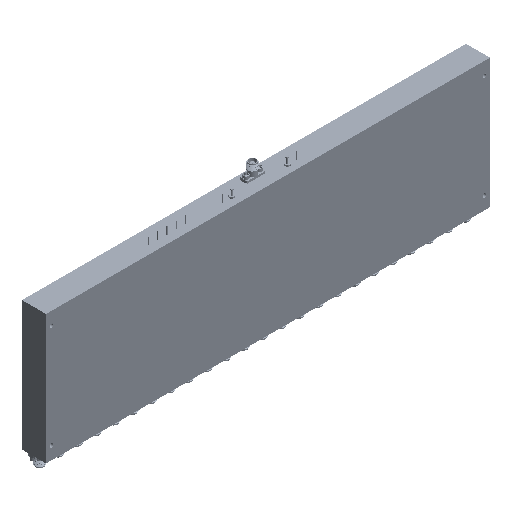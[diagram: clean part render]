
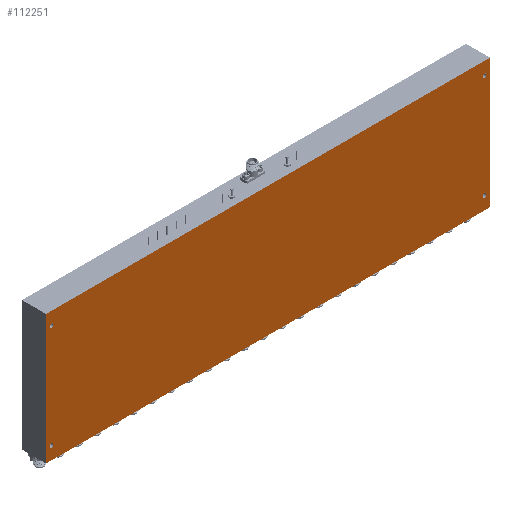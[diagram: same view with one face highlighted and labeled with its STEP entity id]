
A CAD part, isometric view. The second image highlights one B-rep face of the part: STEP entity #112251.
In plain terms, the highlighted planar face has unit normal (0, -1, 0).
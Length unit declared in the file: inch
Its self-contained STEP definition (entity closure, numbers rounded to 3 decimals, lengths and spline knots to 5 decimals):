
#8963 = CARTESIAN_POINT ( 'NONE',  ( 6., -0.65, -1.75 ) ) ;
#10577 = EDGE_CURVE ( 'NONE', #127408, #213827, #146254, .T. ) ;
#13530 = CIRCLE ( 'NONE', #177259, 0.04975 ) ;
#14816 = AXIS2_PLACEMENT_3D ( 'NONE', #183118, #69909, #297670 ) ;
#15356 = DIRECTION ( 'NONE',  ( 0., 0., -1. ) ) ;
#16345 = CARTESIAN_POINT ( 'NONE',  ( -5.85, -0.65, 1.4 ) ) ;
#26122 = EDGE_CURVE ( 'NONE', #189988, #115048, #128172, .T. ) ;
#26828 = DIRECTION ( 'NONE',  ( 0., 0., -1. ) ) ;
#31410 = CARTESIAN_POINT ( 'NONE',  ( 5.85, -0.65, 1.4 ) ) ;
#36581 = CARTESIAN_POINT ( 'NONE',  ( 5.85, -0.65, 1.44975 ) ) ;
#37606 = CARTESIAN_POINT ( 'NONE',  ( 6., -0.65, -1.75 ) ) ;
#38118 = VERTEX_POINT ( 'NONE', #187218 ) ;
#39349 = DIRECTION ( 'NONE',  ( 0., -1., 0. ) ) ;
#40342 = DIRECTION ( 'NONE',  ( 0., 0., -1. ) ) ;
#42017 = AXIS2_PLACEMENT_3D ( 'NONE', #253050, #233378, #26828 ) ;
#44825 = VERTEX_POINT ( 'NONE', #82389 ) ;
#52040 = VERTEX_POINT ( 'NONE', #253185 ) ;
#54331 = ORIENTED_EDGE ( 'NONE', *, *, #139850, .F. ) ;
#58659 = DIRECTION ( 'NONE',  ( 0., 0., -1. ) ) ;
#58748 = DIRECTION ( 'NONE',  ( 0., -1., 0. ) ) ;
#60749 = CARTESIAN_POINT ( 'NONE',  ( -5.85, -0.65, 1.44975 ) ) ;
#62131 = ORIENTED_EDGE ( 'NONE', *, *, #125208, .F. ) ;
#62723 = DIRECTION ( 'NONE',  ( 0., 0., -1. ) ) ;
#64822 = FACE_OUTER_BOUND ( 'NONE', #105582, .T. ) ;
#69909 = DIRECTION ( 'NONE',  ( 0., -1., 0. ) ) ;
#69944 = ORIENTED_EDGE ( 'NONE', *, *, #174011, .F. ) ;
#70556 = CARTESIAN_POINT ( 'NONE',  ( -5.85, -0.65, -1.35025 ) ) ;
#74764 = EDGE_CURVE ( 'NONE', #234542, #127408, #240442, .T. ) ;
#76307 = CARTESIAN_POINT ( 'NONE',  ( 0., -0.65, 0. ) ) ;
#82389 = CARTESIAN_POINT ( 'NONE',  ( 5.85, -0.65, -1.35025 ) ) ;
#83610 = ORIENTED_EDGE ( 'NONE', *, *, #113560, .F. ) ;
#84591 = CARTESIAN_POINT ( 'NONE',  ( 5.85, -0.65, -1.4 ) ) ;
#87460 = FACE_BOUND ( 'NONE', #272138, .T. ) ;
#94508 = FACE_BOUND ( 'NONE', #138281, .T. ) ;
#94932 = CARTESIAN_POINT ( 'NONE',  ( -6., -0.65, 1.75 ) ) ;
#100401 = DIRECTION ( 'NONE',  ( 0., 1., 0. ) ) ;
#102529 = DIRECTION ( 'NONE',  ( 0., 0., -1. ) ) ;
#103506 = DIRECTION ( 'NONE',  ( 0., -1., 0. ) ) ;
#105582 = EDGE_LOOP ( 'NONE', ( #279571, #54331, #280516, #158680 ) ) ;
#106196 = CARTESIAN_POINT ( 'NONE',  ( 5.85, -0.65, 1.4 ) ) ;
#108138 = DIRECTION ( 'NONE',  ( 0., -1., 0. ) ) ;
#108551 = FACE_BOUND ( 'NONE', #143820, .T. ) ;
#112183 = DIRECTION ( 'NONE',  ( 0., 0., -1. ) ) ;
#112251 = ADVANCED_FACE ( 'NONE', ( #108551, #247304, #94508, #87460, #64822 ), #132618, .F. ) ;
#113560 = EDGE_CURVE ( 'NONE', #118627, #175966, #270216, .T. ) ;
#114220 = CIRCLE ( 'NONE', #42017, 0.04975 ) ;
#115048 = VERTEX_POINT ( 'NONE', #36581 ) ;
#115990 = AXIS2_PLACEMENT_3D ( 'NONE', #16345, #108138, #40342 ) ;
#118627 = VERTEX_POINT ( 'NONE', #60749 ) ;
#122968 = EDGE_CURVE ( 'NONE', #38118, #234542, #282053, .T. ) ;
#125208 = EDGE_CURVE ( 'NONE', #52040, #165409, #114220, .T. ) ;
#127408 = VERTEX_POINT ( 'NONE', #241950 ) ;
#128172 = CIRCLE ( 'NONE', #224498, 0.04975 ) ;
#128686 = LINE ( 'NONE', #267517, #164206 ) ;
#132618 = PLANE ( 'NONE',  #226206 ) ;
#138281 = EDGE_LOOP ( 'NONE', ( #62131, #248776 ) ) ;
#138526 = EDGE_LOOP ( 'NONE', ( #215388, #83610 ) ) ;
#139850 = EDGE_CURVE ( 'NONE', #213827, #38118, #128686, .T. ) ;
#143820 = EDGE_LOOP ( 'NONE', ( #194917, #219047 ) ) ;
#146254 = LINE ( 'NONE', #37606, #267816 ) ;
#150044 = VECTOR ( 'NONE', #191644, 39.37008 ) ;
#154219 = EDGE_CURVE ( 'NONE', #115048, #189988, #13530, .T. ) ;
#157492 = DIRECTION ( 'NONE',  ( 0., -1., 0. ) ) ;
#158680 = ORIENTED_EDGE ( 'NONE', *, *, #74764, .F. ) ;
#161816 = EDGE_CURVE ( 'NONE', #44825, #272874, #284071, .T. ) ;
#164206 = VECTOR ( 'NONE', #176993, 39.37008 ) ;
#165409 = VERTEX_POINT ( 'NONE', #70556 ) ;
#170389 = CARTESIAN_POINT ( 'NONE',  ( 5.85, -0.65, -1.44975 ) ) ;
#172687 = EDGE_CURVE ( 'NONE', #165409, #52040, #258835, .T. ) ;
#174011 = EDGE_CURVE ( 'NONE', #272874, #44825, #289083, .T. ) ;
#174015 = VECTOR ( 'NONE', #192332, 39.37008 ) ;
#175966 = VERTEX_POINT ( 'NONE', #186729 ) ;
#176993 = DIRECTION ( 'NONE',  ( -1., 0., 0. ) ) ;
#177259 = AXIS2_PLACEMENT_3D ( 'NONE', #106196, #157492, #112183 ) ;
#183118 = CARTESIAN_POINT ( 'NONE',  ( 5.85, -0.65, -1.4 ) ) ;
#186729 = CARTESIAN_POINT ( 'NONE',  ( -5.85, -0.65, 1.35025 ) ) ;
#187218 = CARTESIAN_POINT ( 'NONE',  ( -6., -0.65, -1.75 ) ) ;
#189988 = VERTEX_POINT ( 'NONE', #294670 ) ;
#191644 = DIRECTION ( 'NONE',  ( 0., 0., 1. ) ) ;
#192332 = DIRECTION ( 'NONE',  ( 1., 0., 0. ) ) ;
#194917 = ORIENTED_EDGE ( 'NONE', *, *, #26122, .F. ) ;
#206285 = ORIENTED_EDGE ( 'NONE', *, *, #161816, .F. ) ;
#212008 = AXIS2_PLACEMENT_3D ( 'NONE', #84591, #39349, #15356 ) ;
#213297 = EDGE_CURVE ( 'NONE', #175966, #118627, #290754, .T. ) ;
#213827 = VERTEX_POINT ( 'NONE', #8963 ) ;
#215388 = ORIENTED_EDGE ( 'NONE', *, *, #213297, .F. ) ;
#217882 = CARTESIAN_POINT ( 'NONE',  ( -6., -0.65, 1.75 ) ) ;
#219047 = ORIENTED_EDGE ( 'NONE', *, *, #154219, .F. ) ;
#224498 = AXIS2_PLACEMENT_3D ( 'NONE', #31410, #243843, #237919 ) ;
#226206 = AXIS2_PLACEMENT_3D ( 'NONE', #76307, #100401, #284360 ) ;
#233378 = DIRECTION ( 'NONE',  ( 0., -1., 0. ) ) ;
#234542 = VERTEX_POINT ( 'NONE', #94932 ) ;
#236790 = CARTESIAN_POINT ( 'NONE',  ( -5.85, -0.65, -1.4 ) ) ;
#237919 = DIRECTION ( 'NONE',  ( 0., 0., -1. ) ) ;
#238281 = CARTESIAN_POINT ( 'NONE',  ( -6., -0.65, -1.75 ) ) ;
#240442 = LINE ( 'NONE', #217882, #174015 ) ;
#241950 = CARTESIAN_POINT ( 'NONE',  ( 6., -0.65, 1.75 ) ) ;
#242510 = AXIS2_PLACEMENT_3D ( 'NONE', #293425, #103506, #62723 ) ;
#243843 = DIRECTION ( 'NONE',  ( 0., -1., 0. ) ) ;
#247304 = FACE_BOUND ( 'NONE', #138526, .T. ) ;
#248776 = ORIENTED_EDGE ( 'NONE', *, *, #172687, .F. ) ;
#253050 = CARTESIAN_POINT ( 'NONE',  ( -5.85, -0.65, -1.4 ) ) ;
#253185 = CARTESIAN_POINT ( 'NONE',  ( -5.85, -0.65, -1.44975 ) ) ;
#258835 = CIRCLE ( 'NONE', #292587, 0.04975 ) ;
#267517 = CARTESIAN_POINT ( 'NONE',  ( -6., -0.65, -1.75 ) ) ;
#267816 = VECTOR ( 'NONE', #58659, 39.37008 ) ;
#270216 = CIRCLE ( 'NONE', #115990, 0.04975 ) ;
#272138 = EDGE_LOOP ( 'NONE', ( #69944, #206285 ) ) ;
#272874 = VERTEX_POINT ( 'NONE', #170389 ) ;
#279571 = ORIENTED_EDGE ( 'NONE', *, *, #122968, .F. ) ;
#280516 = ORIENTED_EDGE ( 'NONE', *, *, #10577, .F. ) ;
#282053 = LINE ( 'NONE', #238281, #150044 ) ;
#284071 = CIRCLE ( 'NONE', #212008, 0.04975 ) ;
#284360 = DIRECTION ( 'NONE',  ( 0., 0., 1. ) ) ;
#289083 = CIRCLE ( 'NONE', #14816, 0.04975 ) ;
#290754 = CIRCLE ( 'NONE', #242510, 0.04975 ) ;
#292587 = AXIS2_PLACEMENT_3D ( 'NONE', #236790, #58748, #102529 ) ;
#293425 = CARTESIAN_POINT ( 'NONE',  ( -5.85, -0.65, 1.4 ) ) ;
#294670 = CARTESIAN_POINT ( 'NONE',  ( 5.85, -0.65, 1.35025 ) ) ;
#297670 = DIRECTION ( 'NONE',  ( 0., 0., -1. ) ) ;
